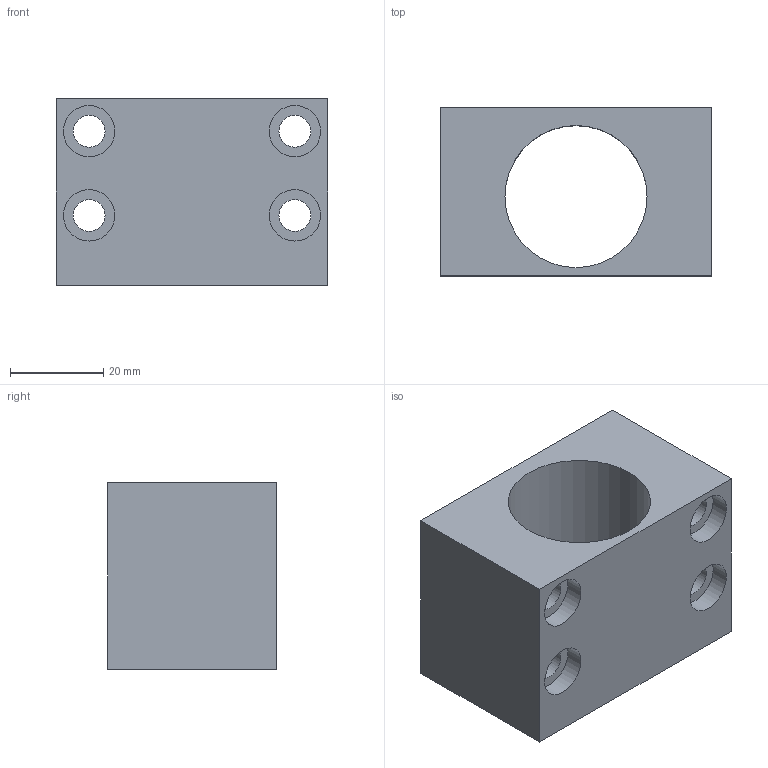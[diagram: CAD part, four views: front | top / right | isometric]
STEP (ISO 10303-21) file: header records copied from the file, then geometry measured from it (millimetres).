
FILE_DESCRIPTION(/* description */ (''),/* implementation_level */ '2;1');
FILE_NAME(/* name */ 'NH12A.stp',/* time_stamp */ '2017-01-13T08:45:24+08:00',/* author */ (''),/* organization */ (''),/* preprocessor_version */ 'ST-DEVELOPER v15',/* originating_system */ 'SIEMENS PLM Software NX 8.5',/* authorisation */ '');
FILE_SCHEMA (('AUTOMOTIVE_DESIGN { 1 0 10303 214 3 1 1 1 }'));
Length unit declared in the file: millimetre
Products named in the file (1): NH12A
Bounding box: 58 x 36 x 40 mm (x, y, z)
Volume: 47276 mm3; surface area: 17704.7 mm2
Topology: 1 solids, 1 shells, 43 faces, 93 edges, 64 vertices
Faces by surface type: cylinder 21, plane 18, cone 4
Full cylindrical faces by diameter (mm): 3.3 x4, 4 x4, 6.8 x4, 8 x4, 11 x4, 30.4 x1
Entity records: 1006 total; most frequent: DIRECTION 184, CARTESIAN_POINT 152, ORIENTED_EDGE 108, FACE_BOUND 92, EDGE_LOOP 90, AXIS2_PLACEMENT_3D 86, VERTEX_POINT 54, EDGE_CURVE 54
